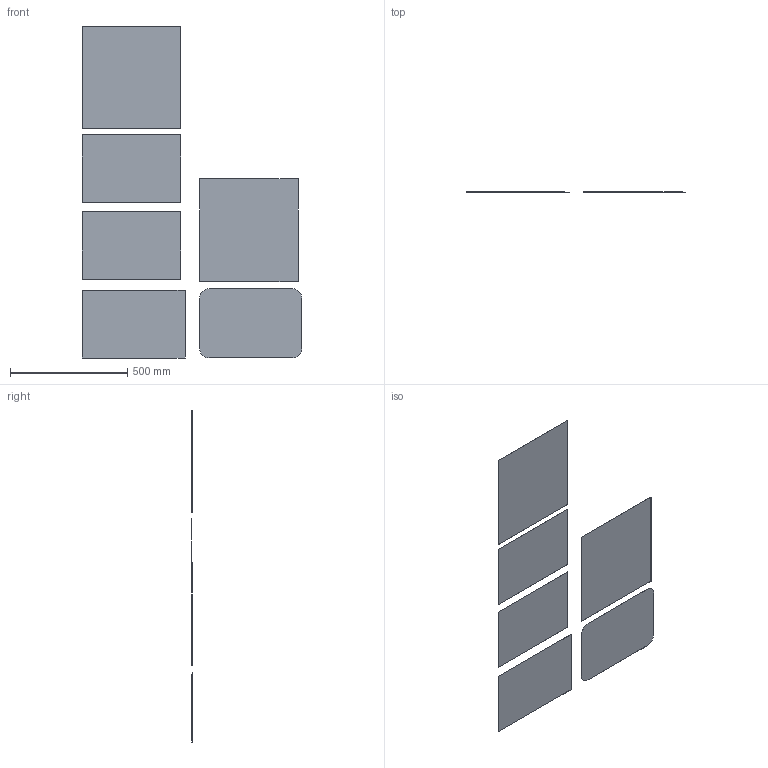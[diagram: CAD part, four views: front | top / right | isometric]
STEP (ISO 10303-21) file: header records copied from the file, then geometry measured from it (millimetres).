
FILE_DESCRIPTION(/* description */ (''),/* implementation_level */ '2;1');
FILE_NAME(/* name */ '/Users/leslieshaw/Desktop/SF_1.4_Vinyl_Cut.step',/* time_stamp */ '2018-08-31T02:57:30-07:00',/* author */ ('leslieshaw1023'),/* organization */ (''),/* preprocessor_version */ 'ST-DEVELOPER v17.2',/* originating_system */ 'Autodesk Translation Framework v7.6.0.251',/* authorisation */ '');
FILE_SCHEMA (('AUTOMOTIVE_DESIGN { 1 0 10303 214 3 1 1 }'));
Length unit declared in the file: millimetre
Products named in the file (80): Sensor_Fusion_Vinyl_1.5; Quarter_scale_servo v1; 4-40 nut93181A003_ALUMINUM HEX NUT v1; 4-40 nut93181A003_ALUMINUM HEX NUT v1 (1); 4-40 nut93181A003_ALUMINUM HEX NUT v1 (2); 4-40 nut93181A003_ALUMINUM HEX NUT v1 (3); light screws 90272A108_ZINC-PLTD STL PAN HEAD PHILLIPS MACHINE SCREW 
v1; light screws 90272A108_ZINC-PLTD STL PAN HEAD PHILLIPS MACHINE SCREW 
v1 (1); light screws 90272A108_ZINC-PLTD STL PAN HEAD PHILLIPS MACHINE SCREW 
v1 (2); light screws 90272A108_ZINC-PLTD STL PAN HEAD PHILLIPS MACHINE SCREW 
v1 (3); 6 32 half 90272A148_ZINC-PLTD STL PAN HEAD PHILLIPS MACHINE SCREW v1; 6 32 half 90272A148_ZINC-PLTD STL PAN HEAD PHILLIPS MACHINE SCREW v1 
(1); 6 32 half 90272A148_ZINC-PLTD STL PAN HEAD PHILLIPS MACHINE SCREW v1 
(2); 6 32 half 90272A148_ZINC-PLTD STL PAN HEAD PHILLIPS MACHINE SCREW v1 
(3); Sensor Fusion box rev. 1.1 (with screws) v6; motor plate v1; 4 - 40- button head 91255A110_ALLOY STEEL BUTTON-HEAD SOCKET CAP SCRE
W v1 (5); 4 - 40- button head 91255A110_ALLOY STEEL BUTTON-HEAD SOCKET CAP SCRE
W v1 (6); 4 - 40- button head 91255A110_ALLOY STEEL BUTTON-HEAD SOCKET CAP SCRE
W v1 (7); 4 - 40- button head 91255A110_ALLOY STEEL BUTTON-HEAD SOCKET CAP SCRE
W v1 (8); 4 - 40- button head 91255A110_ALLOY STEEL BUTTON-HEAD SOCKET CAP SCRE
W v1 (9); 4 - 40- button head 91255A110_ALLOY STEEL BUTTON-HEAD SOCKET CAP SCRE
W v1 (10); 4 - 40- button head 91255A110_ALLOY STEEL BUTTON-HEAD SOCKET CAP SCRE
W v1 (11); 4 - 40- button head 91255A110_ALLOY STEEL BUTTON-HEAD SOCKET CAP SCRE
W v1 (12); 4 - 40- button head 91255A110_ALLOY STEEL BUTTON-HEAD SOCKET CAP SCRE
W v1 (13); 4 - 40- button head 91255A110_ALLOY STEEL BUTTON-HEAD SOCKET CAP SCRE
W v1 (14); 4 - 40- button head 91255A110_ALLOY STEEL BUTTON-HEAD SOCKET CAP SCRE
W v1 (15); 4 - 40- button head 91255A110_ALLOY STEEL BUTTON-HEAD SOCKET CAP SCRE
W v1 (16); 4 - 40- button head 91255A110_ALLOY STEEL BUTTON-HEAD SOCKET CAP SCRE
W v1 (17); 4 - 40- button head 91255A110_ALLOY STEEL BUTTON-HEAD SOCKET CAP SCRE
W v1 (18); 4 - 40- button head 91255A110_ALLOY STEEL BUTTON-HEAD SOCKET CAP SCRE
W v1 (19); 4 - 40- button head 91255A110_ALLOY STEEL BUTTON-HEAD SOCKET CAP SCRE
W v1 (20); 4 - 40- button head 91255A110_ALLOY STEEL BUTTON-HEAD SOCKET CAP SCRE
W v1 (21); 4 - 40- button head 91255A110_ALLOY STEEL BUTTON-HEAD SOCKET CAP SCRE
W v1 (22); 4 - 40- button head 91255A110_ALLOY STEEL BUTTON-HEAD SOCKET CAP SCRE
W v1 (23); 4 - 40- button head 91255A110_ALLOY STEEL BUTTON-HEAD SOCKET CAP SCRE
W v1 (24); 4 - 40- button head 91255A110_ALLOY STEEL BUTTON-HEAD SOCKET CAP SCRE
W v1 (25); 4 - 40- button head 91255A110_ALLOY STEEL BUTTON-HEAD SOCKET CAP SCRE
W v1 (26); 4 - 40- button head 91255A110_ALLOY STEEL BUTTON-HEAD SOCKET CAP SCRE
W v1 (27); 4 - 40- button head 91255A110_ALLOY STEEL BUTTON-HEAD SOCKET CAP SCRE
W v1 (36) ...
Assembly tree (81 placements, depth 3):
  Sensor_Fusion_Vinyl_1.5
    Quarter_scale_servo v1
    4-40 nut93181A003_ALUMINUM HEX NUT v1
    4-40 nut93181A003_ALUMINUM HEX NUT v1 (1)
    4-40 nut93181A003_ALUMINUM HEX NUT v1 (2)
    4-40 nut93181A003_ALUMINUM HEX NUT v1 (3)
    light screws 90272A108_ZINC-PLTD STL PAN HEAD PHILLIPS MACHINE SCREW 
v1
    light screws 90272A108_ZINC-PLTD STL PAN HEAD PHILLIPS MACHINE SCREW 
v1 (1)
    light screws 90272A108_ZINC-PLTD STL PAN HEAD PHILLIPS MACHINE SCREW 
v1 (2)
    light screws 90272A108_ZINC-PLTD STL PAN HEAD PHILLIPS MACHINE SCREW 
v1 (3)
    6 32 half 90272A148_ZINC-PLTD STL PAN HEAD PHILLIPS MACHINE SCREW v1
    6 32 half 90272A148_ZINC-PLTD STL PAN HEAD PHILLIPS MACHINE SCREW v1 
(1)
    6 32 half 90272A148_ZINC-PLTD STL PAN HEAD PHILLIPS MACHINE SCREW v1 
(2)
    6 32 half 90272A148_ZINC-PLTD STL PAN HEAD PHILLIPS MACHINE SCREW v1 
(3)
    Sensor Fusion box rev. 1.1 (with screws) v6
      4-40 half inch 90272A110_ZINC-PLTD STL PAN HEAD PHILLIPS MACHINE SCRE
W v1
      motor plate v1
      4 - 40- button head 91255A110_ALLOY STEEL BUTTON-HEAD SOCKET CAP SCRE
W v1 (5)
      4 - 40- button head 91255A110_ALLOY STEEL BUTTON-HEAD SOCKET CAP SCRE
W v1 (6)
      4 - 40- button head 91255A110_ALLOY STEEL BUTTON-HEAD SOCKET CAP SCRE
W v1 (7)
      4 - 40- button head 91255A110_ALLOY STEEL BUTTON-HEAD SOCKET CAP SCRE
W v1 (8)
      4 - 40- button head 91255A110_ALLOY STEEL BUTTON-HEAD SOCKET CAP SCRE
W v1 (9)
      4 - 40- button head 91255A110_ALLOY STEEL BUTTON-HEAD SOCKET CAP SCRE
W v1 (10)
      4 - 40- button head 91255A110_ALLOY STEEL BUTTON-HEAD SOCKET CAP SCRE
W v1 (11)
      4 - 40- button head 91255A110_ALLOY STEEL BUTTON-HEAD SOCKET CAP SCRE
W v1 (12)
      4 - 40- button head 91255A110_ALLOY STEEL BUTTON-HEAD SOCKET CAP SCRE
W v1 (13)
      4 - 40- button head 91255A110_ALLOY STEEL BUTTON-HEAD SOCKET CAP SCRE
W v1 (14)
      4 - 40- button head 91255A110_ALLOY STEEL BUTTON-HEAD SOCKET CAP SCRE
W v1 (15)
      4 - 40- button head 91255A110_ALLOY STEEL BUTTON-HEAD SOCKET CAP SCRE
W v1 (16)
      4 - 40- button head 91255A110_ALLOY STEEL BUTTON-HEAD SOCKET CAP SCRE
W v1 (17)
      4 - 40- button head 91255A110_ALLOY STEEL BUTTON-HEAD SOCKET CAP SCRE
W v1 (18)
      4 - 40- button head 91255A110_ALLOY STEEL BUTTON-HEAD SOCKET CAP SCRE
W v1 (19)
      4 - 40- button head 91255A110_ALLOY STEEL BUTTON-HEAD SOCKET CAP SCRE
W v1 (20)
      4 - 40- button head 91255A110_ALLOY STEEL BUTTON-HEAD SOCKET CAP SCRE
W v1 (21)
      4 - 40- button head 91255A110_ALLOY STEEL BUTTON-HEAD SOCKET CAP SCRE
W v1 (22)
      4 - 40- button head 91255A110_ALLOY STEEL BUTTON-HEAD SOCKET CAP SCRE
W v1 (23)
      4 - 40- button head 91255A110_ALLOY STEEL BUTTON-HEAD SOCKET CAP SCRE
W v1 (24)
      4 - 40- button head 91255A110_ALLOY STEEL BUTTON-HEAD SOCKET CAP SCRE
W v1 (25)
      4 - 40- button head 91255A110_ALLOY STEEL BUTTON-HEAD SOCKET CAP SCRE
W v1 (26)
      4 - 40- button head 91255A110_ALLOY STEEL BUTTON-HEAD SOCKET CAP SCRE
W v1 (27)
      4 - 40- button head 91255A110_ALLOY STEEL BUTTON-HEAD SOCKET CAP SCRE
W v1 (36)
      4 - 40- button head 91255A110_ALLOY STEEL BUTTON-HEAD SOCKET CAP SCRE
W v1 (37)
      4 - 40- button head 91255A110_ALLOY STEEL BUTTON-HEAD SOCKET CAP SCRE
W v1 (38)
      4 - 40- button head 91255A110_ALLOY STEEL BUTTON-HEAD SOCKET CAP SCRE
W v1 (39)
      4 - 40- button head 91255A110_ALLOY STEEL BUTTON-HEAD SOCKET CAP SCRE
W v1 (40)
      4 - 40- button head 91255A110_ALLOY STEEL BUTTON-HEAD SOCKET CAP SCRE
W v1 (41)
      4 - 40- button head 91255A110_ALLOY STEEL BUTTON-HEAD SOCKET CAP SCRE
W v1 (42)
      4 - 40- button head 91255A110_ALLOY STEEL BUTTON-HEAD SOCKET CAP SCRE
W v1 (43)
      4 - 40- button head 91255A110_ALLOY STEEL BUTTON-HEAD SOCKET CAP SCRE
W v1 (44)
      4 - 40- button head 91255A110_ALLOY STEEL BUTTON-HEAD SOCKET CAP SCRE
W v1 (35)
      4 - 40- button head 91255A110_ALLOY STEEL BUTTON-HEAD SOCKET CAP SCRE
W v1 (45)
      4 - 40- button head 91255A110_ALLOY STEEL BUTTON-HEAD SOCKET CAP SCRE
W v1 (46)
      4 - 40- button head 91255A110_ALLOY STEEL BUTTON-HEAD SOCKET CAP SCRE
W v1 (47)
      4 - 40- button head 91255A110_ALLOY STEEL BUTTON-HEAD SOCKET CAP SCRE
W v1 (48)
      4 - 40- button head 91255A110_ALLOY STEEL BUTTON-HEAD SOCKET CAP SCRE
W v1 (49)
      4 - 40- button head 91255A110_ALLOY STEEL BUTTON-HEAD SOCKET CAP SCRE
W v1 (50)
      4 - 40- button head 91255A110_ALLOY STEEL BUTTON-HEAD SOCKET CAP SCRE
W v1 (51)
      4 - 40- button head 91255A110_ALLOY STEEL BUTTON-HEAD SOCKET CAP SCRE
W v1 (4)
      4 - 40- button head 91255A110_ALLOY STEEL BUTTON-HEAD SOCKET CAP SCRE
W v1 (29)
      4 - 40- button head 91255A110_ALLOY STEEL BUTTON-HEAD SOCKET CAP SCRE
W v1 (31)
Bounding box: 935 x 1.05 x 1413 mm (x, y, z)
Volume: 430524.3 mm3; surface area: 1726645.8 mm2
Topology: 6 solids, 6 shells, 40 faces, 84 edges, 56 vertices
Faces by surface type: plane 36, cylinder 4
Entity records: 3384 total; most frequent: DIRECTION 470, CARTESIAN_POINT 315, AXIS2_PLACEMENT_3D 203, PRODUCT_DEFINITION_SHAPE 161, DERIVED_UNIT_ELEMENT 156, PROPERTY_DEFINITION_REPRESENTATION 156, REPRESENTATION 156, PROPERTY_DEFINITION 156
